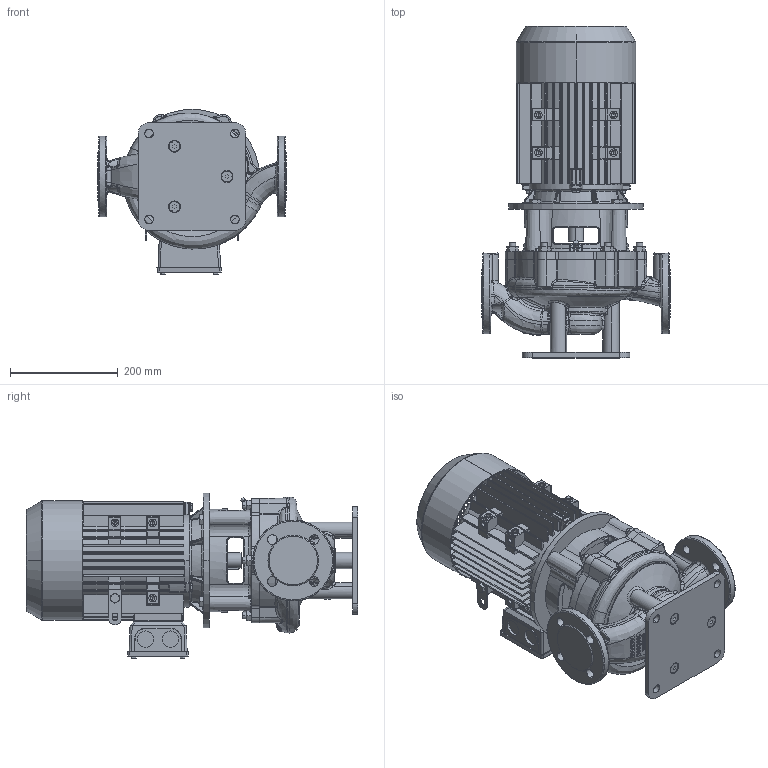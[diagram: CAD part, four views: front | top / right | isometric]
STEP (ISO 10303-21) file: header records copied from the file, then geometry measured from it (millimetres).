
FILE_DESCRIPTION((''),'2;1');
FILE_NAME('ESL40-180_A12_MOTOR_4A_112_M-2_ASM','2019-08-30T',('brhe'),(''),'PRO/ENGINEER BY PARAMETRIC TECHNOLOGY CORPORATION, 2017170','PRO/ENGINEER BY PARAMETRIC TECHNOLOGY CORPORATION, 2017170','');
FILE_SCHEMA(('CONFIG_CONTROL_DESIGN'));
Products named in the file (17): 190630; 700365; 678594_ASM; 523850; 760085; 700224; 704063; 678586_ASM; 678593_ASM; 591780; 704371; E42637_1; E42637_2; E42637_AF0_ASM; 690812_ASM; 842220; ESL40-180_A12_MOTOR_4A_112_M-2_ASM
Assembly tree (31 placements, depth 4):
  ESL40-180_A12_MOTOR_4A_112_M-2_ASM
    678593_ASM
      678594_ASM
        190630
        700365  x3
      678586_ASM
        523850
        760085
        700224  x6
        704063  x6
    690812_ASM
      591780
      704371  x4
      E42637_AF0_ASM
        E42637_1
        E42637_2
    842220
Bounding box: 350 x 616 x 307.5 mm (x, y, z)
Volume: 15072807.2 mm3; surface area: 1502271.6 mm2
Topology: 27 solids, 47 shells, 4077 faces, 10738 edges, 6791 vertices
Faces by surface type: plane 1826, cylinder 793, bspline 556, cone 376, extrusion 324, torus 160, sphere 42
Entity records: 169663 total; most frequent: CARTESIAN_POINT 79885, ORIENTED_EDGE 20098, DIRECTION 15792, EDGE_CURVE 10082, VERTEX_POINT 6455, VECTOR 5534, LINE 5210, AXIS2_PLACEMENT_3D 5129
